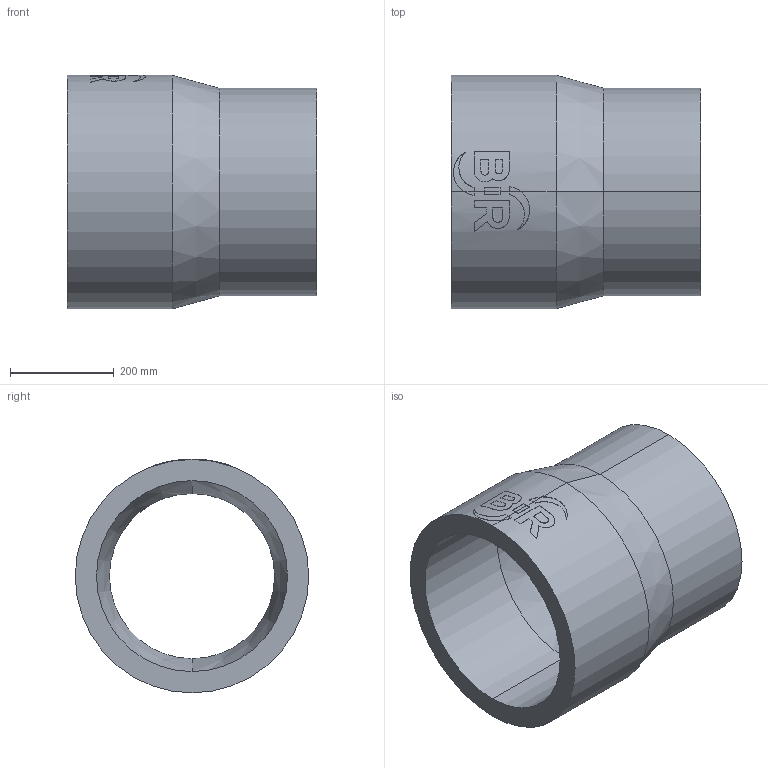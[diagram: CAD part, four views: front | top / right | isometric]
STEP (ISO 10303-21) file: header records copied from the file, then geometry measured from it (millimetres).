
FILE_DESCRIPTION (( 'STEP AP214' ), '1' );
FILE_NAME ('2323262515.STEP', '2018-07-20T11:20:19', ( '' ), ( '' ), 'SwSTEP 2.0', 'SolidWorks 2017', '' );
FILE_SCHEMA (( 'AUTOMOTIVE_DESIGN' ));
Length unit declared in the file: millimetre
Products named in the file (1): 2323262515
Bounding box: 480 x 450 x 450.46 mm (x, y, z)
Volume: 23890277.1 mm3; surface area: 1267364.3 mm2
Topology: 1 solids, 1 shells, 63 faces, 160 edges, 104 vertices
Faces by surface type: cylinder 31, plane 28, cone 4
Entity records: 3488 total; most frequent: CARTESIAN_POINT 1279, ORIENTED_EDGE 320, DIRECTION 296, EDGE_CURVE 160, AXIS2_PLACEMENT_3D 112, VERTEX_POINT 104, VECTOR 72, LINE 72
